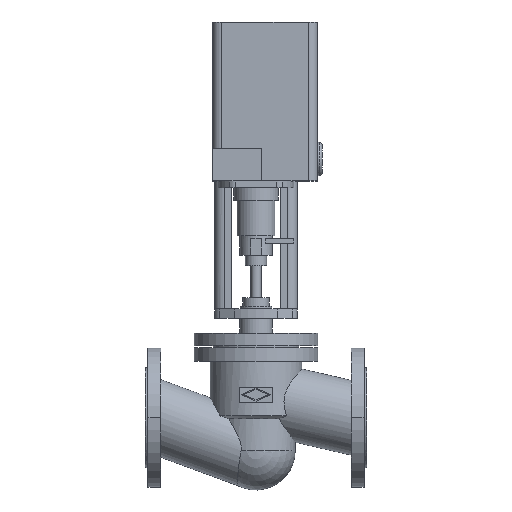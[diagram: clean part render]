
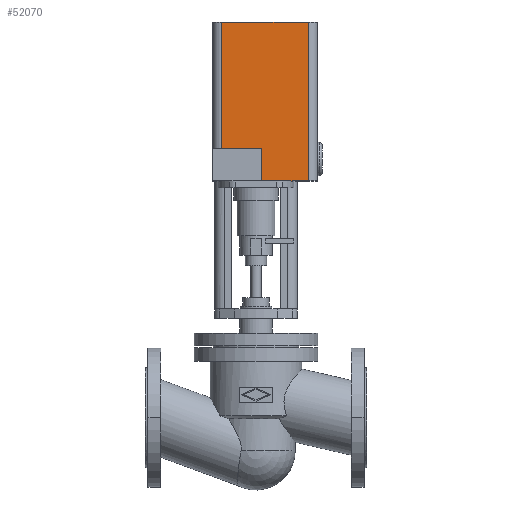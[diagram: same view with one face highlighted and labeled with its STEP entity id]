
A CAD part, top view. The second image highlights one B-rep face of the part: STEP entity #52070.
In plain terms, the highlighted planar face has unit normal (0, 0, 1).
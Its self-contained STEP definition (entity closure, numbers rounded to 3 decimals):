
#43780=CARTESIAN_POINT('',(183.6,374.,89.));
#43790=VERTEX_POINT('',#43780);
#43840=CARTESIAN_POINT('',(120.6,374.,89.));
#43850=DIRECTION('',(1.,0.,0.));
#43860=VECTOR('',#43850,1.);
#43870=LINE('',#43840,#43860);
#43880=CARTESIAN_POINT('',(257.6,374.,89.));
#43890=VERTEX_POINT('',#43880);
#43900=EDGE_CURVE('',#43790,#43890,#43870,.T.);
#47190=CARTESIAN_POINT('',(257.6,374.,89.));
#47200=DIRECTION('',(0.,-1.,0.));
#47210=VECTOR('',#47200,1.);
#47220=LINE('',#47190,#47210);
#47230=CARTESIAN_POINT('',(257.6,625.,89.));
#47240=VERTEX_POINT('',#47230);
#47250=EDGE_CURVE('',#47240,#43890,#47220,.T.);
#50270=CARTESIAN_POINT('',(120.6,625.,89.));
#50280=DIRECTION('',(-1.,0.,0.));
#50290=VECTOR('',#50280,1.);
#50300=LINE('',#50270,#50290);
#50310=CARTESIAN_POINT('',(120.6,625.,89.));
#50320=VERTEX_POINT('',#50310);
#50330=EDGE_CURVE('',#47240,#50320,#50300,.T.);
#50770=CARTESIAN_POINT('',(120.6,426.,89.));
#50780=VERTEX_POINT('',#50770);
#50810=CARTESIAN_POINT('',(216.3,426.,89.));
#50820=DIRECTION('',(1.,0.,0.));
#50830=VECTOR('',#50820,1.);
#50840=LINE('',#50810,#50830);
#50850=CARTESIAN_POINT('',(183.6,426.,89.));
#50860=VERTEX_POINT('',#50850);
#50870=EDGE_CURVE('',#50780,#50860,#50840,.T.);
#51440=CARTESIAN_POINT('',(183.6,374.,89.));
#51450=DIRECTION('',(0.,-1.,0.));
#51460=VECTOR('',#51450,1.);
#51470=LINE('',#51440,#51460);
#51480=EDGE_CURVE('',#50860,#43790,#51470,.T.);
#51840=CARTESIAN_POINT('',(120.6,374.,89.));
#51850=DIRECTION('',(0.,1.,0.));
#51860=VECTOR('',#51850,1.);
#51870=LINE('',#51840,#51860);
#51880=EDGE_CURVE('',#50780,#50320,#51870,.T.);
#51940=CARTESIAN_POINT('',(257.6,374.,89.));
#51950=DIRECTION('',(0.,0.,1.));
#51960=DIRECTION('',(1.,0.,0.));
#51970=AXIS2_PLACEMENT_3D('',#51940,#51950,#51960);
#51980=PLANE('',#51970);
#51990=ORIENTED_EDGE('',*,*,#51880,.F.);
#52000=ORIENTED_EDGE('',*,*,#50330,.T.);
#52010=ORIENTED_EDGE('',*,*,#47250,.F.);
#52020=ORIENTED_EDGE('',*,*,#43900,.T.);
#52030=ORIENTED_EDGE('',*,*,#51480,.T.);
#52040=ORIENTED_EDGE('',*,*,#50870,.T.);
#52050=EDGE_LOOP('',(#52040,#52030,#52020,#52010,#52000,#51990));
#52060=FACE_OUTER_BOUND('',#52050,.T.);
#52070=ADVANCED_FACE('',(#52060),#51980,.T.);
